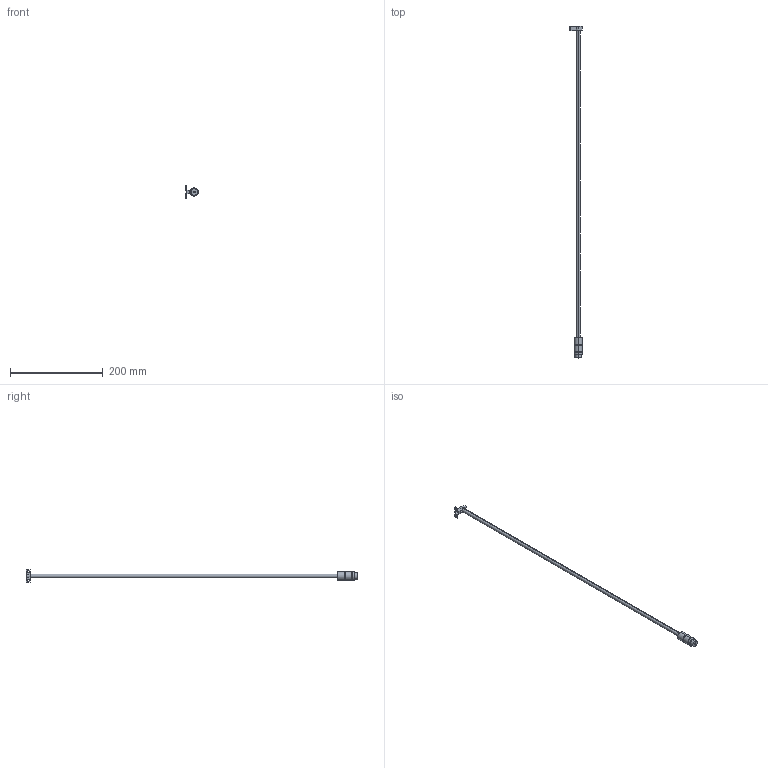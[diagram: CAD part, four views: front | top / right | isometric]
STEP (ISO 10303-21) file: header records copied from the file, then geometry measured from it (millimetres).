
FILE_DESCRIPTION (( 'STEP AP203' ), '1' );
FILE_NAME ('ER-VAB065.STEP', '2005-09-05T00:30:02', ( '' ), ( '' ), 'SwSTEP 2.0', 'SolidWorks 2004073', '' );
FILE_SCHEMA (( 'CONFIG_CONTROL_DESIGN' ));
Length unit declared in the file: millimetre
Products named in the file (1): ER-VAB065
Bounding box: 28 x 717.4 x 26 mm (x, y, z)
Volume: 35894.3 mm3; surface area: 30965 mm2
Topology: 2 solids, 2 shells, 193 faces, 542 edges, 360 vertices
Faces by surface type: cylinder 158, plane 35
Entity records: 8331 total; most frequent: CARTESIAN_POINT 3472, ORIENTED_EDGE 1084, DIRECTION 718, EDGE_CURVE 542, VERTEX_POINT 360, EDGE_LOOP 336, B_SPLINE_CURVE_WITH_KNOTS 264, AXIS2_PLACEMENT_3D 246
